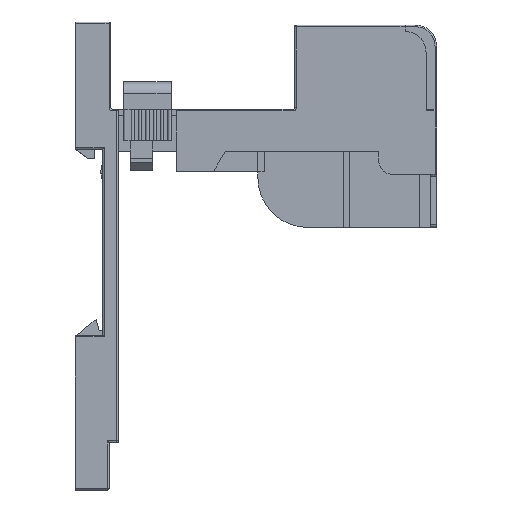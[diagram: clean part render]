
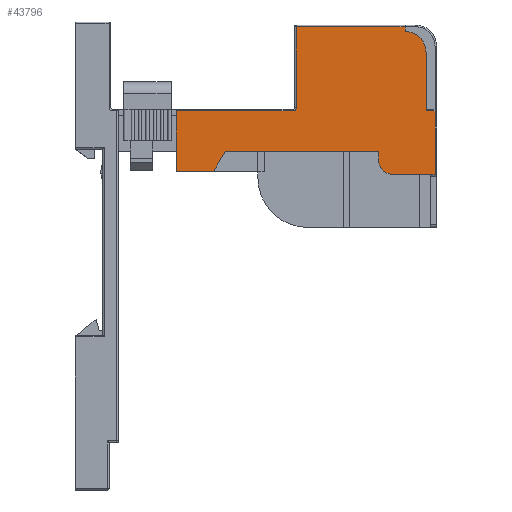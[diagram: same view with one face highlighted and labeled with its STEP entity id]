
A CAD part, top view. The second image highlights one B-rep face of the part: STEP entity #43796.
In plain terms, the highlighted planar face has unit normal (0, 0, 1).
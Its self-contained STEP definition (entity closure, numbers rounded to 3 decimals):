
#91 = DIRECTION ( 'NONE',  ( 0., 0., -1. ) ) ;
#448 = CIRCLE ( 'NONE', #20695, 4. ) ;
#744 = CARTESIAN_POINT ( 'NONE',  ( -23.7, 42., 22. ) ) ;
#987 = CARTESIAN_POINT ( 'NONE',  ( -23.1, 68.4, 22. ) ) ;
#1270 = VERTEX_POINT ( 'NONE', #987 ) ;
#1393 = CARTESIAN_POINT ( 'NONE',  ( -34.2, 66.7, 22. ) ) ;
#1899 = LINE ( 'NONE', #56516, #22742 ) ;
#3134 = DIRECTION ( 'NONE',  ( 0., -1., 0. ) ) ;
#3819 = LINE ( 'NONE', #54486, #35610 ) ;
#3848 = DIRECTION ( 'NONE',  ( 0., 1., 0. ) ) ;
#3923 = DIRECTION ( 'NONE',  ( -0.865, 0.501, 0. ) ) ;
#3971 = VECTOR ( 'NONE', #3848, 1000. ) ;
#4241 = LINE ( 'NONE', #27741, #40908 ) ;
#4907 = EDGE_CURVE ( 'NONE', #25450, #53944, #20945, .T. ) ;
#5381 = CARTESIAN_POINT ( 'NONE',  ( -23.1, 41.4, 22. ) ) ;
#7792 = LINE ( 'NONE', #44278, #56013 ) ;
#8130 = VECTOR ( 'NONE', #3134, 1000. ) ;
#8399 = FACE_OUTER_BOUND ( 'NONE', #13753, .T. ) ;
#8573 = LINE ( 'NONE', #22116, #8130 ) ;
#9249 = VERTEX_POINT ( 'NONE', #5381 ) ;
#9319 = LINE ( 'NONE', #10224, #33319 ) ;
#10058 = AXIS2_PLACEMENT_3D ( 'NONE', #17736, #17136, #13212 ) ;
#10224 = CARTESIAN_POINT ( 'NONE',  ( -23.1, 68.4, 22. ) ) ;
#11469 = VERTEX_POINT ( 'NONE', #29102 ) ;
#11851 = VECTOR ( 'NONE', #57461, 1000. ) ;
#11952 = LINE ( 'NONE', #35749, #12975 ) ;
#12372 = CARTESIAN_POINT ( 'NONE',  ( -13.7, 57.7, 22. ) ) ;
#12646 = EDGE_CURVE ( 'NONE', #9249, #45246, #8573, .T. ) ;
#12694 = CIRCLE ( 'NONE', #18503, 0.6 ) ;
#12758 = EDGE_CURVE ( 'NONE', #27544, #53944, #448, .T. ) ;
#12833 = DIRECTION ( 'NONE',  ( -1., 0., 0. ) ) ;
#12975 = VECTOR ( 'NONE', #12833, 1000. ) ;
#13208 = CARTESIAN_POINT ( 'NONE',  ( -11.6, 19.2, 22. ) ) ;
#13212 = DIRECTION ( 'NONE',  ( 1., 0., 0. ) ) ;
#13681 = DIRECTION ( 'NONE',  ( -1., 0., 0. ) ) ;
#13753 = EDGE_LOOP ( 'NONE', ( #39830, #45344, #42523, #21845, #48708, #21413, #46016, #50042, #41293, #57771, #28622, #50254, #27914, #42927, #40715, #30414 ) ) ;
#14661 = EDGE_CURVE ( 'NONE', #1270, #25450, #9319, .T. ) ;
#15698 = CARTESIAN_POINT ( 'NONE',  ( -13.7, 60.4, 22. ) ) ;
#16169 = DIRECTION ( 'NONE',  ( 0., 0., -1. ) ) ;
#17056 = CARTESIAN_POINT ( 'NONE',  ( -23.1, 19.2, 22. ) ) ;
#17136 = DIRECTION ( 'NONE',  ( 0., 0., 1. ) ) ;
#17736 = CARTESIAN_POINT ( 'NONE',  ( -40., 0., 22. ) ) ;
#18503 = AXIS2_PLACEMENT_3D ( 'NONE', #49302, #16169, #52948 ) ;
#20695 = AXIS2_PLACEMENT_3D ( 'NONE', #23296, #91, #13681 ) ;
#20945 = LINE ( 'NONE', #30002, #36164 ) ;
#21413 = ORIENTED_EDGE ( 'NONE', *, *, #44990, .T. ) ;
#21845 = ORIENTED_EDGE ( 'NONE', *, *, #58763, .T. ) ;
#22116 = CARTESIAN_POINT ( 'NONE',  ( -23.1, 41.4, 22. ) ) ;
#22742 = VECTOR ( 'NONE', #33588, 1000. ) ;
#23296 = CARTESIAN_POINT ( 'NONE',  ( -34.2, 62.7, 22. ) ) ;
#23693 = DIRECTION ( 'NONE',  ( 0., 1., 0. ) ) ;
#24430 = EDGE_CURVE ( 'NONE', #25533, #40520, #1899, .T. ) ;
#24730 = VECTOR ( 'NONE', #23693, 1000. ) ;
#24765 = DIRECTION ( 'NONE',  ( 1., 0., 0. ) ) ;
#24890 = EDGE_CURVE ( 'NONE', #11469, #36507, #54780, .T. ) ;
#25450 = VERTEX_POINT ( 'NONE', #44914 ) ;
#25533 = VERTEX_POINT ( 'NONE', #40986 ) ;
#26055 = DIRECTION ( 'NONE',  ( -1., 0., 0. ) ) ;
#26314 = CARTESIAN_POINT ( 'NONE',  ( -11.6, 19.2, 22. ) ) ;
#27224 = VERTEX_POINT ( 'NONE', #12372 ) ;
#27434 = LINE ( 'NONE', #50655, #32605 ) ;
#27544 = VERTEX_POINT ( 'NONE', #31206 ) ;
#27696 = DIRECTION ( 'NONE',  ( 0., -1., 0. ) ) ;
#27741 = CARTESIAN_POINT ( 'NONE',  ( -15.4, 28.5, 22. ) ) ;
#27914 = ORIENTED_EDGE ( 'NONE', *, *, #40227, .T. ) ;
#28327 = LINE ( 'NONE', #50946, #47724 ) ;
#28565 = EDGE_CURVE ( 'NONE', #33167, #37043, #27434, .T. ) ;
#28622 = ORIENTED_EDGE ( 'NONE', *, *, #28565, .T. ) ;
#29102 = CARTESIAN_POINT ( 'NONE',  ( -39.1, 42., 22. ) ) ;
#29605 = CARTESIAN_POINT ( 'NONE',  ( -11.6, 26.3, 22. ) ) ;
#30002 = CARTESIAN_POINT ( 'NONE',  ( -23.1, 66.7, 22. ) ) ;
#30414 = ORIENTED_EDGE ( 'NONE', *, *, #52205, .F. ) ;
#30420 = LINE ( 'NONE', #13208, #3971 ) ;
#30659 = DIRECTION ( 'NONE',  ( 0., -1., 0. ) ) ;
#31069 = CIRCLE ( 'NONE', #52312, 2.7 ) ;
#31206 = CARTESIAN_POINT ( 'NONE',  ( -38.2, 62.7, 22. ) ) ;
#31581 = EDGE_CURVE ( 'NONE', #42643, #33167, #30420, .T. ) ;
#32605 = VECTOR ( 'NONE', #3923, 1000. ) ;
#33167 = VERTEX_POINT ( 'NONE', #29605 ) ;
#33319 = VECTOR ( 'NONE', #27696, 1000. ) ;
#33588 = DIRECTION ( 'NONE',  ( 0., 1., 0. ) ) ;
#35610 = VECTOR ( 'NONE', #50261, 1000. ) ;
#35749 = CARTESIAN_POINT ( 'NONE',  ( -11.6, 19.2, 22. ) ) ;
#36084 = DIRECTION ( 'NONE',  ( 0., 0., 1. ) ) ;
#36164 = VECTOR ( 'NONE', #26055, 1000. ) ;
#36507 = VERTEX_POINT ( 'NONE', #53075 ) ;
#36840 = CARTESIAN_POINT ( 'NONE',  ( -15.4, 28.5, 22. ) ) ;
#37043 = VERTEX_POINT ( 'NONE', #36840 ) ;
#39830 = ORIENTED_EDGE ( 'NONE', *, *, #14661, .T. ) ;
#40227 = EDGE_CURVE ( 'NONE', #48320, #27224, #7792, .T. ) ;
#40520 = VERTEX_POINT ( 'NONE', #46353 ) ;
#40715 = ORIENTED_EDGE ( 'NONE', *, *, #24430, .T. ) ;
#40892 = CARTESIAN_POINT ( 'NONE',  ( -15.4, 57.7, 22. ) ) ;
#40908 = VECTOR ( 'NONE', #59440, 1000. ) ;
#40910 = CARTESIAN_POINT ( 'NONE',  ( -39.1, 42., 22. ) ) ;
#40986 = CARTESIAN_POINT ( 'NONE',  ( -11., 60.4, 22. ) ) ;
#40994 = EDGE_CURVE ( 'NONE', #55189, #9249, #12694, .T. ) ;
#41293 = ORIENTED_EDGE ( 'NONE', *, *, #42270, .F. ) ;
#42270 = EDGE_CURVE ( 'NONE', #42643, #45246, #11952, .T. ) ;
#42523 = ORIENTED_EDGE ( 'NONE', *, *, #12758, .F. ) ;
#42643 = VERTEX_POINT ( 'NONE', #26314 ) ;
#42927 = ORIENTED_EDGE ( 'NONE', *, *, #58366, .T. ) ;
#43796 = ADVANCED_FACE ( 'NONE', ( #8399 ), #59360, .T. ) ;
#44278 = CARTESIAN_POINT ( 'NONE',  ( -15.4, 57.7, 22. ) ) ;
#44579 = EDGE_CURVE ( 'NONE', #37043, #48320, #4241, .T. ) ;
#44914 = CARTESIAN_POINT ( 'NONE',  ( -23.1, 66.7, 22. ) ) ;
#44990 = EDGE_CURVE ( 'NONE', #11469, #55189, #28327, .T. ) ;
#45246 = VERTEX_POINT ( 'NONE', #17056 ) ;
#45344 = ORIENTED_EDGE ( 'NONE', *, *, #4907, .T. ) ;
#46016 = ORIENTED_EDGE ( 'NONE', *, *, #40994, .T. ) ;
#46353 = CARTESIAN_POINT ( 'NONE',  ( -11., 68.4, 22. ) ) ;
#47724 = VECTOR ( 'NONE', #54578, 1000. ) ;
#48320 = VERTEX_POINT ( 'NONE', #40892 ) ;
#48708 = ORIENTED_EDGE ( 'NONE', *, *, #24890, .F. ) ;
#49302 = CARTESIAN_POINT ( 'NONE',  ( -23.7, 41.4, 22. ) ) ;
#50042 = ORIENTED_EDGE ( 'NONE', *, *, #12646, .T. ) ;
#50254 = ORIENTED_EDGE ( 'NONE', *, *, #44579, .T. ) ;
#50261 = DIRECTION ( 'NONE',  ( 1., 0., 0. ) ) ;
#50655 = CARTESIAN_POINT ( 'NONE',  ( -11.6, 26.3, 22. ) ) ;
#50946 = CARTESIAN_POINT ( 'NONE',  ( -39.1, 42., 22. ) ) ;
#52205 = EDGE_CURVE ( 'NONE', #1270, #40520, #3819, .T. ) ;
#52312 = AXIS2_PLACEMENT_3D ( 'NONE', #15698, #36084, #30659 ) ;
#52629 = CARTESIAN_POINT ( 'NONE',  ( -38.2, 62.7, 22. ) ) ;
#52948 = DIRECTION ( 'NONE',  ( 0., 1., 0. ) ) ;
#53075 = CARTESIAN_POINT ( 'NONE',  ( -39.1, 62.7, 22. ) ) ;
#53944 = VERTEX_POINT ( 'NONE', #1393 ) ;
#54486 = CARTESIAN_POINT ( 'NONE',  ( -23.1, 68.4, 22. ) ) ;
#54578 = DIRECTION ( 'NONE',  ( 1., 0., 0. ) ) ;
#54780 = LINE ( 'NONE', #40910, #24730 ) ;
#55189 = VERTEX_POINT ( 'NONE', #744 ) ;
#56013 = VECTOR ( 'NONE', #24765, 1000. ) ;
#56516 = CARTESIAN_POINT ( 'NONE',  ( -11., 60.4, 22. ) ) ;
#56573 = LINE ( 'NONE', #52629, #11851 ) ;
#57461 = DIRECTION ( 'NONE',  ( -1., 0., 0. ) ) ;
#57771 = ORIENTED_EDGE ( 'NONE', *, *, #31581, .T. ) ;
#58366 = EDGE_CURVE ( 'NONE', #27224, #25533, #31069, .T. ) ;
#58763 = EDGE_CURVE ( 'NONE', #27544, #36507, #56573, .T. ) ;
#59360 = PLANE ( 'NONE',  #10058 ) ;
#59440 = DIRECTION ( 'NONE',  ( 0., 1., 0. ) ) ;
